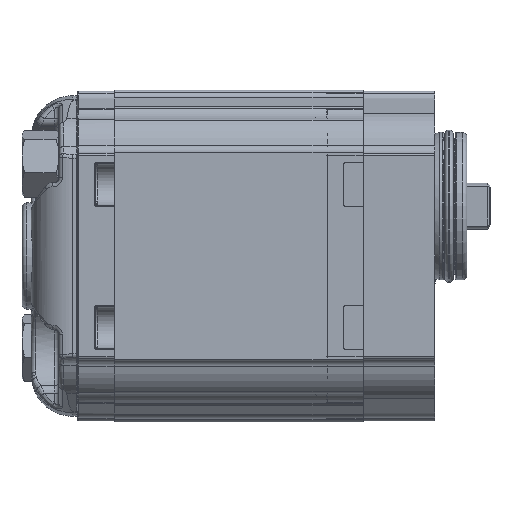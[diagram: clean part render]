
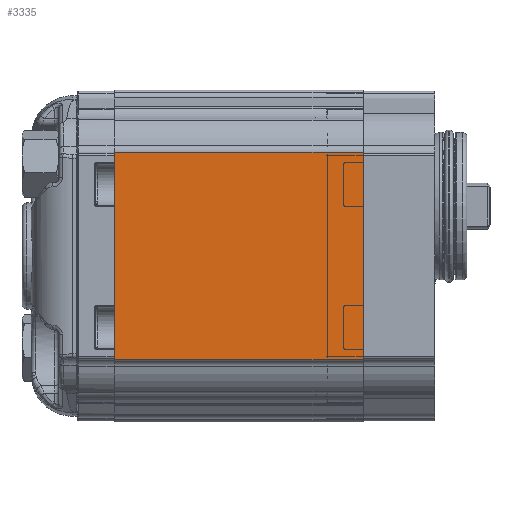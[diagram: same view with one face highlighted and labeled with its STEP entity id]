
A CAD part, left-side view. The second image highlights one B-rep face of the part: STEP entity #3335.
In plain terms, the highlighted planar face has unit normal (-1, 0, 0).
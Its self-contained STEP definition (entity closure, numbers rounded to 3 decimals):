
#3335 = ADVANCED_FACE( '', ( #7152 ), #7153, .T. );
#7152 = FACE_OUTER_BOUND( '', #14090, .T. );
#7153 = PLANE( '', #14091 );
#14090 = EDGE_LOOP( '', ( #24608, #24609, #24610, #24611 ) );
#14091 = AXIS2_PLACEMENT_3D( '', #24612, #24613, #24614 );
#24608 = ORIENTED_EDGE( '', *, *, #28044, .T. );
#24609 = ORIENTED_EDGE( '', *, *, #31198, .T. );
#24610 = ORIENTED_EDGE( '', *, *, #31199, .T. );
#24611 = ORIENTED_EDGE( '', *, *, #30699, .F. );
#24612 = CARTESIAN_POINT( '', ( -33., 129.534, 48.138 ) );
#24613 = DIRECTION( '', ( -1., 0., 0. ) );
#24614 = DIRECTION( '', ( 0., 0., 1. ) );
#28044 = EDGE_CURVE( '', #33091, #33092, #33093, .T. );
#30699 = EDGE_CURVE( '', #33091, #36972, #36973, .T. );
#31198 = EDGE_CURVE( '', #33092, #37552, #37553, .T. );
#31199 = EDGE_CURVE( '', #37552, #36972, #37554, .F. );
#33091 = VERTEX_POINT( '', #41311 );
#33092 = VERTEX_POINT( '', #41312 );
#33093 = LINE( '', #41313, #41314 );
#36972 = VERTEX_POINT( '', #50188 );
#36973 = LINE( '', #50189, #50190 );
#37552 = VERTEX_POINT( '', #51442 );
#37553 = LINE( '', #51443, #51444 );
#37554 = LINE( '', #51445, #51446 );
#41311 = CARTESIAN_POINT( '', ( -33., 54., -22.5 ) );
#41312 = CARTESIAN_POINT( '', ( -33., 0., -22.5 ) );
#41313 = CARTESIAN_POINT( '', ( -33., 54., -22.5 ) );
#41314 = VECTOR( '', #53411, 1000. );
#50188 = CARTESIAN_POINT( '', ( -33., 54., 22.5 ) );
#50189 = CARTESIAN_POINT( '', ( -33., 54., -21.711 ) );
#50190 = VECTOR( '', #56604, 1000. );
#51442 = CARTESIAN_POINT( '', ( -33., 0., 22.5 ) );
#51443 = CARTESIAN_POINT( '', ( -33., 0., -21.711 ) );
#51444 = VECTOR( '', #57117, 1000. );
#51445 = CARTESIAN_POINT( '', ( -33., 54., 22.5 ) );
#51446 = VECTOR( '', #57118, 1000. );
#53411 = DIRECTION( '', ( 0., -1., 0. ) );
#56604 = DIRECTION( '', ( 0., 0., 1. ) );
#57117 = DIRECTION( '', ( 0., 0., 1. ) );
#57118 = DIRECTION( '', ( 0., -1., 0. ) );
